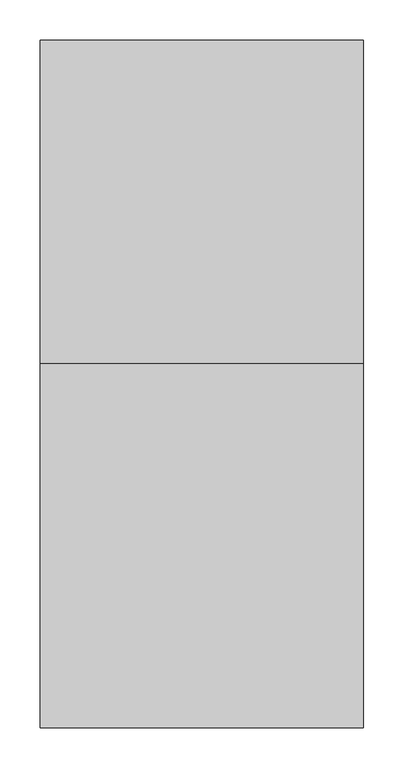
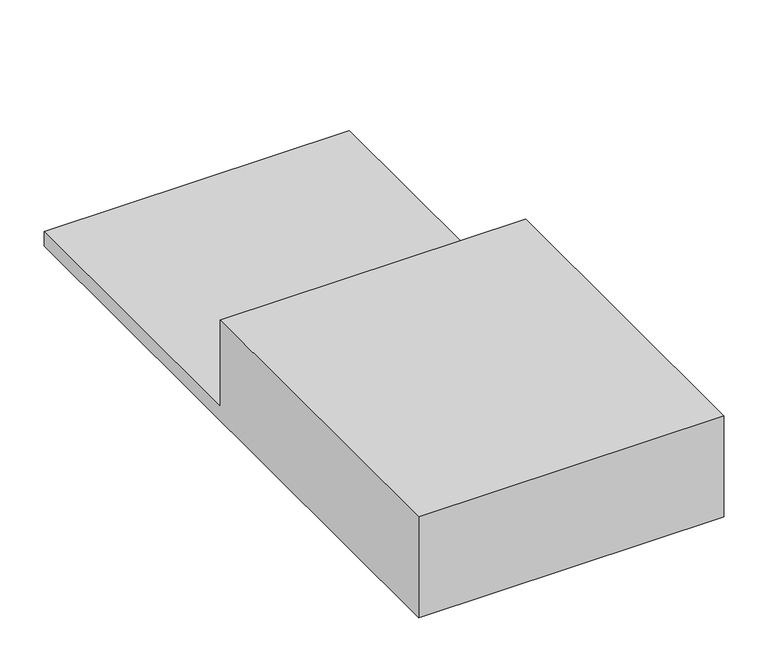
"""IFC4 building model written with IfcOpenShell, lengths in millimetres: proxy geometry, bossages appuis C0a : bossages appuis."""

from ifc_helpers import new_model, si_unit, frame, origin, place, context, project, spatial, polyline, outline, extrude, source, transform, mapped, element, save


def generic_models_b100e966(model_context):
    return source(origin(), model_context, "Body", "SweptSolid", [
        extrude(outline(polyline([(-1975.0, 4230.0), (-1525.0, 4230.0), (-1525.0, 4110.0), (-1125.0, 4110.0), (-1125.0, 4090.0), (-1975.0, 4090.0), (-1975.0, 4230.0)])), frame((-6550.0, 0.0, 0.0), z_axis=(1.0, 0.0, 0.0), x_axis=(0.0, 1.0, 0.0)), (0.0, 0.0, 1.0), 400.0),
    ])


if __name__ == "__main__":
    model = new_model("IFC4")
    model_context = context("Model", 3, world=origin())
    ifc_project = project(units=[si_unit("LENGTHUNIT", "METRE", prefix="MILLI")], contexts=[model_context])
    site = spatial("IfcSite", under=ifc_project)
    building = spatial("IfcBuilding", under=site)
    placement = place(None, origin())
    generic_models_shape = generic_models_b100e966(model_context)
    element("IfcBuildingElementProxy", 1, Name="bossages appuis C0a : bossages appuis", ObjectType="bossages appuis C0a : bossages appuis", at=placement, inside=building, context=model_context, shape_type="MappedRepresentation", body=[
        mapped(generic_models_shape, transform((0.0, 0.0, 0.0), x_axis=(1.0, 0.0, 0.0), y_axis=(0.0, 1.0, 0.0), z_axis=(0.0, 0.0, 1.0))),
    ])
    save(model, "model.ifc")
